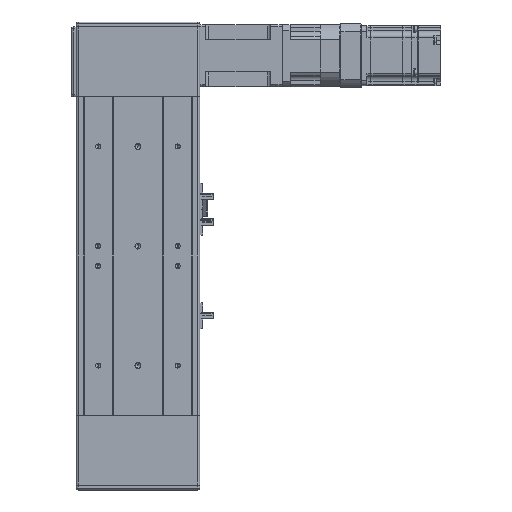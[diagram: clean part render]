
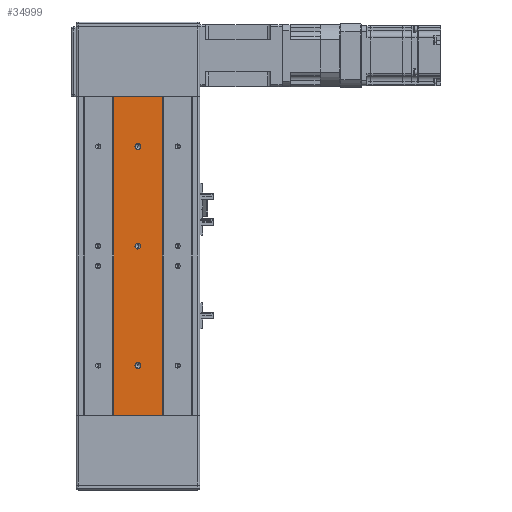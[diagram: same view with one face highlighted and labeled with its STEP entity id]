
A CAD part, front view. The second image highlights one B-rep face of the part: STEP entity #34999.
In plain terms, the highlighted planar face has unit normal (0, -1, 0).
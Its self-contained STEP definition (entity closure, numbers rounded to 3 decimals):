
#6246 = VERTEX_POINT ( 'NONE', #44109 ) ;
#6618 = VERTEX_POINT ( 'NONE', #70498 ) ;
#13380 = CARTESIAN_POINT ( 'NONE',  ( -24.5, -42., -160. ) ) ;
#15365 = VERTEX_POINT ( 'NONE', #45516 ) ;
#18749 = FACE_BOUND ( 'NONE', #51904, .T. ) ;
#18769 = FACE_BOUND ( 'NONE', #51888, .T. ) ;
#18773 = FACE_BOUND ( 'NONE', #51865, .T. ) ;
#18778 = FACE_OUTER_BOUND ( 'NONE', #51863, .T. ) ;
#19918 = DIRECTION ( 'NONE',  ( 0., 0., -1. ) ) ;
#19939 = CARTESIAN_POINT ( 'NONE',  ( 0., -42., 160. ) ) ;
#19941 = DIRECTION ( 'NONE',  ( 0., -1., 0. ) ) ;
#19966 = PLANE ( 'NONE',  #84703 ) ;
#20154 = VERTEX_POINT ( 'NONE', #45923 ) ;
#20163 = VERTEX_POINT ( 'NONE', #45930 ) ;
#20229 = VERTEX_POINT ( 'NONE', #45341 ) ;
#20283 = VERTEX_POINT ( 'NONE', #13380 ) ;
#34999 = ADVANCED_FACE ( 'NONE', ( #18769, #18773, #18749, #18778 ), #19966, .T. ) ;
#40686 = VERTEX_POINT ( 'NONE', #60791 ) ;
#44109 = CARTESIAN_POINT ( 'NONE',  ( 0., -42., 7. ) ) ;
#45341 = CARTESIAN_POINT ( 'NONE',  ( 24.5, -42., 160. ) ) ;
#45516 = CARTESIAN_POINT ( 'NONE',  ( 0., -42., 113. ) ) ;
#45923 = CARTESIAN_POINT ( 'NONE',  ( 24.5, -42., -160. ) ) ;
#45930 = CARTESIAN_POINT ( 'NONE',  ( -24.5, -42., 160. ) ) ;
#46626 = EDGE_CURVE ( 'NONE', #15365, #50472, #67654, .T. ) ;
#46690 = EDGE_CURVE ( 'NONE', #59620, #6246, #67765, .T. ) ;
#46703 = EDGE_CURVE ( 'NONE', #6618, #40686, #66606, .T. ) ;
#47076 = EDGE_CURVE ( 'NONE', #20163, #20283, #62310, .T. ) ;
#47080 = EDGE_CURVE ( 'NONE', #50472, #15365, #62383, .T. ) ;
#47081 = EDGE_CURVE ( 'NONE', #20229, #20154, #62367, .T. ) ;
#47107 = EDGE_CURVE ( 'NONE', #40686, #6618, #62455, .T. ) ;
#47126 = EDGE_CURVE ( 'NONE', #20229, #20163, #62679, .T. ) ;
#47136 = EDGE_CURVE ( 'NONE', #20154, #20283, #62691, .T. ) ;
#47177 = EDGE_CURVE ( 'NONE', #6246, #59620, #62858, .T. ) ;
#50472 = VERTEX_POINT ( 'NONE', #75431 ) ;
#51863 = EDGE_LOOP ( 'NONE', ( #64540, #64523, #64544, #64484 ) ) ;
#51865 = EDGE_LOOP ( 'NONE', ( #64503, #64511 ) ) ;
#51888 = EDGE_LOOP ( 'NONE', ( #64451, #64596 ) ) ;
#51904 = EDGE_LOOP ( 'NONE', ( #64528, #64534 ) ) ;
#59620 = VERTEX_POINT ( 'NONE', #84224 ) ;
#60791 = CARTESIAN_POINT ( 'NONE',  ( 0., -42., -113. ) ) ;
#62310 = LINE ( 'NONE', #65266, #62484 ) ;
#62367 = LINE ( 'NONE', #65455, #62528 ) ;
#62383 = CIRCLE ( 'NONE', #85101, 3. ) ;
#62455 = CIRCLE ( 'NONE', #85073, 3. ) ;
#62484 = VECTOR ( 'NONE', #65279, 1000. ) ;
#62528 = VECTOR ( 'NONE', #65472, 1000. ) ;
#62642 = VECTOR ( 'NONE', #65600, 1000. ) ;
#62666 = VECTOR ( 'NONE', #65657, 1000. ) ;
#62679 = LINE ( 'NONE', #65624, #62642 ) ;
#62691 = LINE ( 'NONE', #65651, #62666 ) ;
#62858 = CIRCLE ( 'NONE', #85175, 3. ) ;
#64451 = ORIENTED_EDGE ( 'NONE', *, *, #47177, .F. ) ;
#64484 = ORIENTED_EDGE ( 'NONE', *, *, #47076, .T. ) ;
#64503 = ORIENTED_EDGE ( 'NONE', *, *, #47080, .F. ) ;
#64511 = ORIENTED_EDGE ( 'NONE', *, *, #46626, .F. ) ;
#64523 = ORIENTED_EDGE ( 'NONE', *, *, #47081, .F. ) ;
#64528 = ORIENTED_EDGE ( 'NONE', *, *, #47107, .F. ) ;
#64534 = ORIENTED_EDGE ( 'NONE', *, *, #46703, .F. ) ;
#64540 = ORIENTED_EDGE ( 'NONE', *, *, #47136, .F. ) ;
#64544 = ORIENTED_EDGE ( 'NONE', *, *, #47126, .T. ) ;
#64596 = ORIENTED_EDGE ( 'NONE', *, *, #46690, .F. ) ;
#65266 = CARTESIAN_POINT ( 'NONE',  ( -24.5, -42., 160. ) ) ;
#65279 = DIRECTION ( 'NONE',  ( 0., 0., -1. ) ) ;
#65367 = CARTESIAN_POINT ( 'NONE',  ( 0., -42., 110. ) ) ;
#65447 = DIRECTION ( 'NONE',  ( 0., -1., 0. ) ) ;
#65455 = CARTESIAN_POINT ( 'NONE',  ( 24.5, -42., 160. ) ) ;
#65458 = DIRECTION ( 'NONE',  ( 0., 0., -1. ) ) ;
#65472 = DIRECTION ( 'NONE',  ( 0., 0., -1. ) ) ;
#65489 = DIRECTION ( 'NONE',  ( 0., -1., 0. ) ) ;
#65514 = DIRECTION ( 'NONE',  ( 0., 0., -1. ) ) ;
#65522 = CARTESIAN_POINT ( 'NONE',  ( 0., -42., -110. ) ) ;
#65600 = DIRECTION ( 'NONE',  ( -1., 0., 0. ) ) ;
#65624 = CARTESIAN_POINT ( 'NONE',  ( 0., -42., 160. ) ) ;
#65651 = CARTESIAN_POINT ( 'NONE',  ( 0., -42., -160. ) ) ;
#65657 = DIRECTION ( 'NONE',  ( -1., 0., 0. ) ) ;
#65781 = CARTESIAN_POINT ( 'NONE',  ( 0., -42., 10. ) ) ;
#65786 = DIRECTION ( 'NONE',  ( 0., 0., -1. ) ) ;
#65798 = DIRECTION ( 'NONE',  ( 0., -1., 0. ) ) ;
#66606 = CIRCLE ( 'NONE', #84986, 3. ) ;
#67654 = CIRCLE ( 'NONE', #84974, 3. ) ;
#67765 = CIRCLE ( 'NONE', #84985, 3. ) ;
#70411 = DIRECTION ( 'NONE',  ( 0., -1., 0. ) ) ;
#70452 = CARTESIAN_POINT ( 'NONE',  ( 0., -42., 110. ) ) ;
#70475 = DIRECTION ( 'NONE',  ( 0., 0., -1. ) ) ;
#70498 = CARTESIAN_POINT ( 'NONE',  ( 0., -42., -107. ) ) ;
#70625 = DIRECTION ( 'NONE',  ( 0., -1., 0. ) ) ;
#70650 = DIRECTION ( 'NONE',  ( 0., 0., -1. ) ) ;
#70659 = CARTESIAN_POINT ( 'NONE',  ( 0., -42., 10. ) ) ;
#70666 = DIRECTION ( 'NONE',  ( 0., -1., 0. ) ) ;
#70689 = DIRECTION ( 'NONE',  ( 0., 0., -1. ) ) ;
#70692 = CARTESIAN_POINT ( 'NONE',  ( 0., -42., -110. ) ) ;
#75431 = CARTESIAN_POINT ( 'NONE',  ( 0., -42., 107. ) ) ;
#84224 = CARTESIAN_POINT ( 'NONE',  ( 0., -42., 13. ) ) ;
#84703 = AXIS2_PLACEMENT_3D ( 'NONE', #19939, #19941, #19918 ) ;
#84974 = AXIS2_PLACEMENT_3D ( 'NONE', #70452, #70411, #70475 ) ;
#84985 = AXIS2_PLACEMENT_3D ( 'NONE', #70659, #70625, #70650 ) ;
#84986 = AXIS2_PLACEMENT_3D ( 'NONE', #70692, #70666, #70689 ) ;
#85073 = AXIS2_PLACEMENT_3D ( 'NONE', #65522, #65489, #65514 ) ;
#85101 = AXIS2_PLACEMENT_3D ( 'NONE', #65367, #65447, #65458 ) ;
#85175 = AXIS2_PLACEMENT_3D ( 'NONE', #65781, #65798, #65786 ) ;
